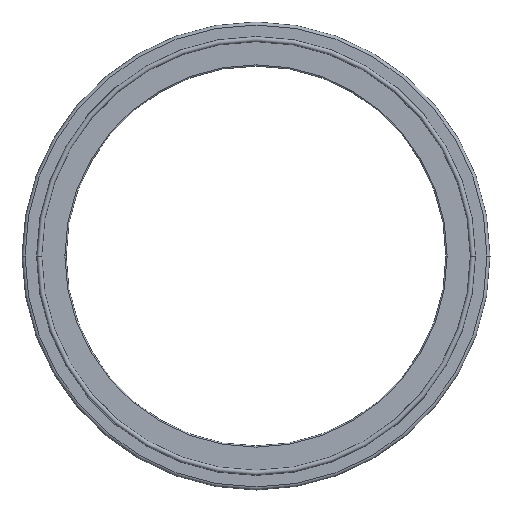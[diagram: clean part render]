
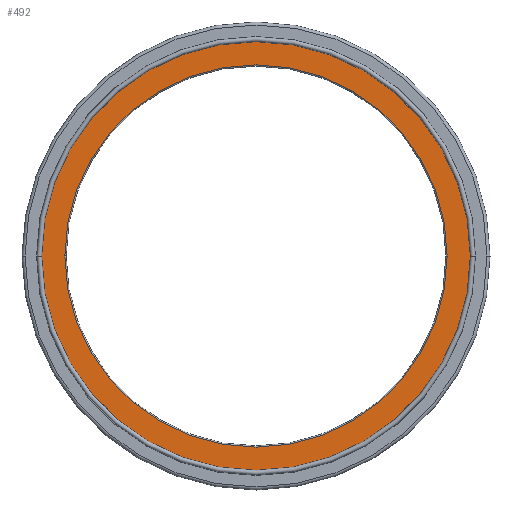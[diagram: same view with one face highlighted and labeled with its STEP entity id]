
A CAD part, left-side view. The second image highlights one B-rep face of the part: STEP entity #492.
In plain terms, the highlighted planar face has unit normal (-1, 0, 0).
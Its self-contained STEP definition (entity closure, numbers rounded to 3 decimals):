
#120=CARTESIAN_POINT('',(-1.,0.,0.));
#121=DIRECTION('',(-1.,0.,0.));
#122=DIRECTION('',(0.,-1.,0.));
#123=AXIS2_PLACEMENT_3D('',#120,#121,#122);
#125=CARTESIAN_POINT('',(-1.,0.,0.));
#126=DIRECTION('',(-1.,0.,0.));
#127=DIRECTION('',(0.,1.,0.));
#128=AXIS2_PLACEMENT_3D('',#125,#126,#127);
#130=CARTESIAN_POINT('',(-1.,0.,0.));
#131=DIRECTION('',(1.,0.,0.));
#132=DIRECTION('',(0.,1.,0.));
#133=AXIS2_PLACEMENT_3D('',#130,#131,#132);
#139=CARTESIAN_POINT('',(-1.,0.,0.));
#140=DIRECTION('',(-1.,0.,0.));
#141=DIRECTION('',(0.,1.,0.));
#142=AXIS2_PLACEMENT_3D('',#139,#140,#141);
#263=CARTESIAN_POINT('',(-1.,-31.2,0.));
#264=CARTESIAN_POINT('',(-1.,31.2,0.));
#265=VERTEX_POINT('',#263);
#266=VERTEX_POINT('',#264);
#275=CARTESIAN_POINT('',(-1.,34.986,0.));
#276=VERTEX_POINT('',#275);
#277=CARTESIAN_POINT('',(-1.,-34.986,0.));
#278=VERTEX_POINT('',#277);
#476=CARTESIAN_POINT('',(-1.,0.,0.));
#477=DIRECTION('',(1.,0.,0.));
#478=DIRECTION('',(0.,-1.,0.));
#479=AXIS2_PLACEMENT_3D('',#476,#477,#478);
#480=PLANE('',#479);
#482=ORIENTED_EDGE('',*,*,#481,.T.);
#484=ORIENTED_EDGE('',*,*,#483,.F.);
#485=EDGE_LOOP('',(#482,#484));
#486=FACE_OUTER_BOUND('',#485,.F.);
#487=ORIENTED_EDGE('',*,*,#466,.T.);
#489=ORIENTED_EDGE('',*,*,#488,.T.);
#490=EDGE_LOOP('',(#487,#489));
#491=FACE_BOUND('',#490,.F.);
#492=ADVANCED_FACE('',(#486,#491),#480,.F.);
#124=CIRCLE('',#123,31.2);
#129=CIRCLE('',#128,31.2);
#134=CIRCLE('',#133,34.986);
#143=CIRCLE('',#142,34.986);
#466=EDGE_CURVE('',#265,#266,#124,.T.);
#481=EDGE_CURVE('',#276,#278,#134,.T.);
#483=EDGE_CURVE('',#276,#278,#143,.T.);
#488=EDGE_CURVE('',#266,#265,#129,.T.);
